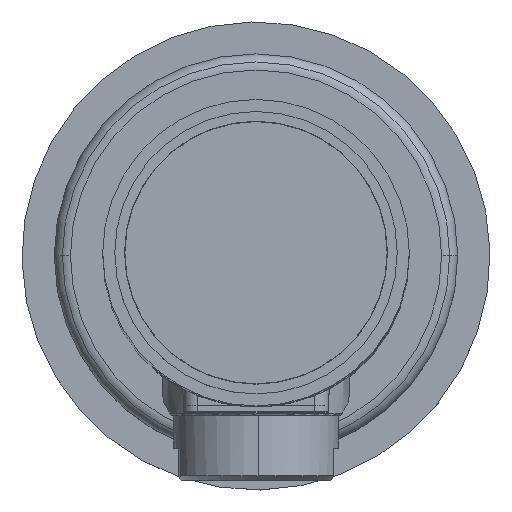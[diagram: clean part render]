
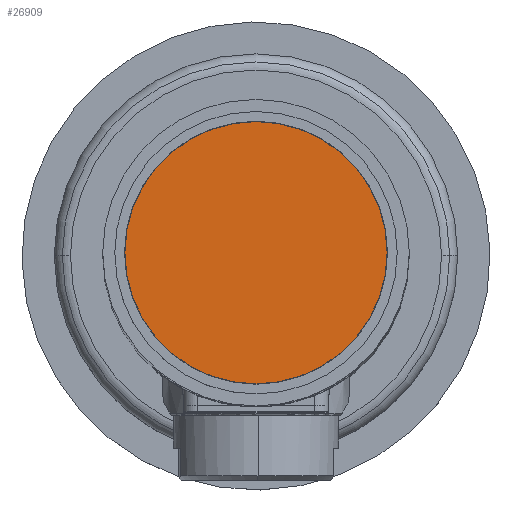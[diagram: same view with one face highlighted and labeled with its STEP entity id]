
A CAD part, top view. The second image highlights one B-rep face of the part: STEP entity #26909.
In plain terms, the highlighted planar face has unit normal (0, 0, 1) as drawn and (0, -1, 0) by its records, which use the part's own axes.
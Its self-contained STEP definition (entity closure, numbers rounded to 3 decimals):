
#7893 = CARTESIAN_POINT ( 'NONE',  ( 0., 0., 16.25 ) ) ;
#7894 = CARTESIAN_POINT ( 'NONE',  ( 0., 0., -16.25 ) ) ;
#9174 = CARTESIAN_POINT ( 'NONE',  ( 0., 0., 0. ) ) ;
#9175 = DIRECTION ( 'NONE',  ( 0., 1., 0. ) ) ;
#9176 = DIRECTION ( 'NONE',  ( 0., 0., 1. ) ) ;
#9183 = CARTESIAN_POINT ( 'NONE',  ( 0., 0., 0. ) ) ;
#9184 = DIRECTION ( 'NONE',  ( 0., 1., 0. ) ) ;
#9185 = DIRECTION ( 'NONE',  ( 0., 0., 1. ) ) ;
#11204 = AXIS2_PLACEMENT_3D ( 'NONE', #11676, #11682, #11683 ) ;
#11673 = PLANE ( 'NONE',  #11204 ) ;
#11676 = CARTESIAN_POINT ( 'NONE',  ( 0., 0., 0. ) ) ;
#11680 = FACE_OUTER_BOUND ( 'NONE', #23251, .T. ) ;
#11682 = DIRECTION ( 'NONE',  ( 0., 1., 0. ) ) ;
#11683 = DIRECTION ( 'NONE',  ( 0., 0., 1. ) ) ;
#23251 = EDGE_LOOP ( 'NONE', ( #28493, #28494 ) ) ;
#23714 = VERTEX_POINT ( 'NONE', #7893 ) ;
#23715 = VERTEX_POINT ( 'NONE', #7894 ) ;
#26169 = EDGE_CURVE ( 'NONE', #23714, #23715, #58737, .T. ) ;
#26176 = EDGE_CURVE ( 'NONE', #23715, #23714, #58743, .T. ) ;
#26909 = ADVANCED_FACE ( 'NONE', ( #11680 ), #11673, .F. ) ;
#28493 = ORIENTED_EDGE ( 'NONE', *, *, #26176, .F. ) ;
#28494 = ORIENTED_EDGE ( 'NONE', *, *, #26169, .F. ) ;
#58737 = CIRCLE ( 'NONE', #58741, 16.25 ) ;
#58741 = AXIS2_PLACEMENT_3D ( 'NONE', #9174, #9175, #9176 ) ;
#58743 = CIRCLE ( 'NONE', #58746, 16.25 ) ;
#58746 = AXIS2_PLACEMENT_3D ( 'NONE', #9183, #9184, #9185 ) ;
